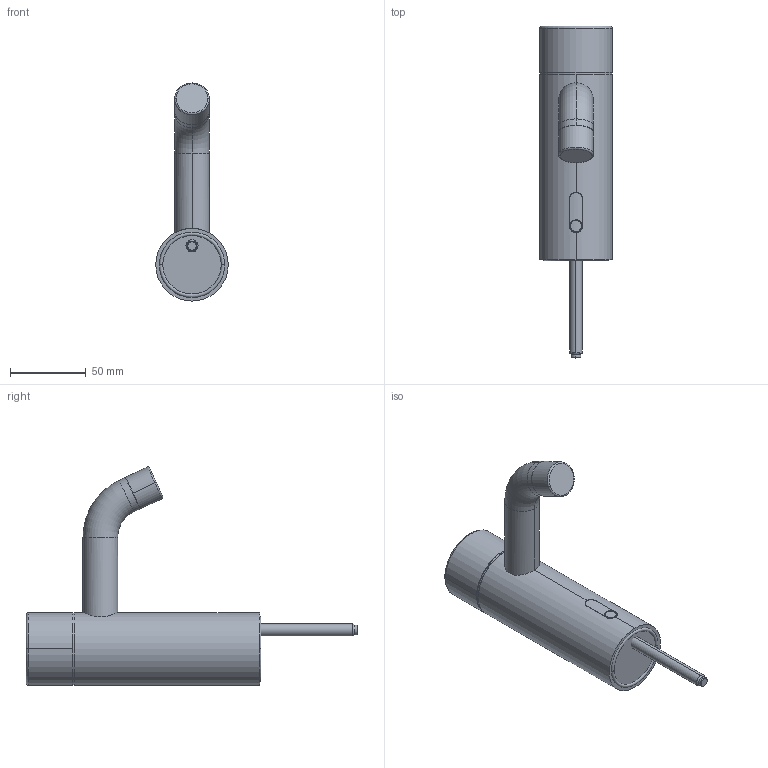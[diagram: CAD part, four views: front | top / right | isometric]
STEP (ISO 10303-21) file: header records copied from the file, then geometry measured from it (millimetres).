
FILE_DESCRIPTION((''),'2;1');
FILE_NAME('74022--00','2020-09-03T15:35:32',('majo1'),(''),'CREO PARAMETRIC BY PTC INC, 2018190','CREO PARAMETRIC BY PTC INC, 2018190','');
FILE_SCHEMA(('CONFIG_CONTROL_DESIGN'));
Length unit declared in the file: millimetre
Products named in the file (1): 74022--00
Bounding box: 48 x 219.71 x 144.36 mm (x, y, z)
Surface area: 37694 mm2 (no closed solid volume)
Topology: 0 solids, 12 shells, 60 faces, 161 edges, 108 vertices
Faces by surface type: cylinder 18, torus 15, bspline 12, cone 8, plane 7
Entity records: 4352 total; most frequent: CARTESIAN_POINT 2954, ORIENTED_EDGE 263, DIRECTION 262, EDGE_CURVE 161, AXIS2_PLACEMENT_3D 113, VERTEX_POINT 108, CIRCLE 65, EDGE_LOOP 60
